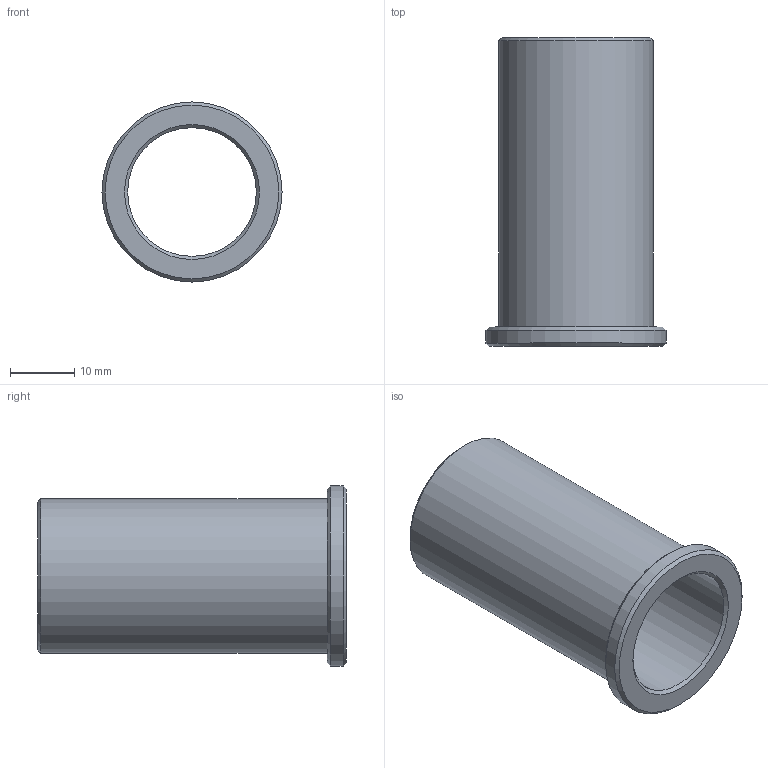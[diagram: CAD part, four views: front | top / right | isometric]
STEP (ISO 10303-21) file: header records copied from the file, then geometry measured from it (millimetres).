
FILE_DESCRIPTION(/* description */ (''),/* implementation_level */ '2;1');
FILE_NAME(/* name */ 'SYSTEM_SUPPORT_11.stp',/* time_stamp */ '2017-12-06T14:27:27+01:00',/* author */ (''),/* organization */ (''),/* preprocessor_version */ 'ST-DEVELOPER v16',/* originating_system */ 'SIEMENS PLM Software NX 10.0',/* authorisation */ '');
FILE_SCHEMA (('AP203_CONFIGURATION_CONTROLLED_3D_DESIGN_OF_MECHANICAL_PARTS_AND_ASSEMBLIES_MIM_LF { 1 0 10303 403 2 1 2}'));
Length unit declared in the file: millimetre
Products named in the file (1): turc1DB80072j4l4
Bounding box: 28 x 48 x 28 mm (x, y, z)
Volume: 7078.1 mm3; surface area: 7165.2 mm2
Topology: 1 solids, 1 shells, 11 faces, 21 edges, 13 vertices
Faces by surface type: cone 5, plane 3, cylinder 3
Full cylindrical faces by diameter (mm): 20 x1, 24 x1, 28 x1
Entity records: 320 total; most frequent: DIRECTION 46, CARTESIAN_POINT 34, AXIS2_PLACEMENT_3D 23, FACE_BOUND 22, EDGE_LOOP 22, ORIENTED_EDGE 22, ADVANCED_FACE 11, VERTEX_POINT 11
